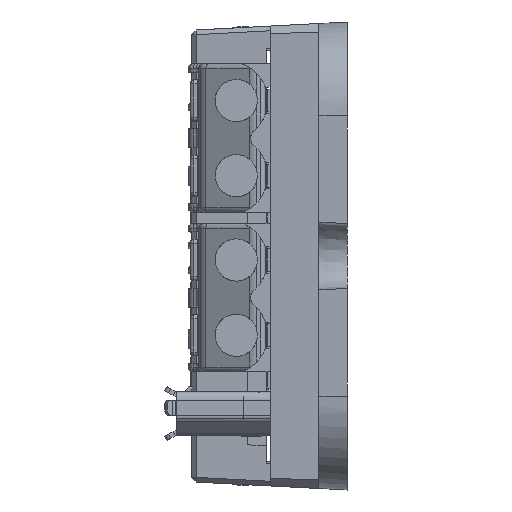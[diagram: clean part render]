
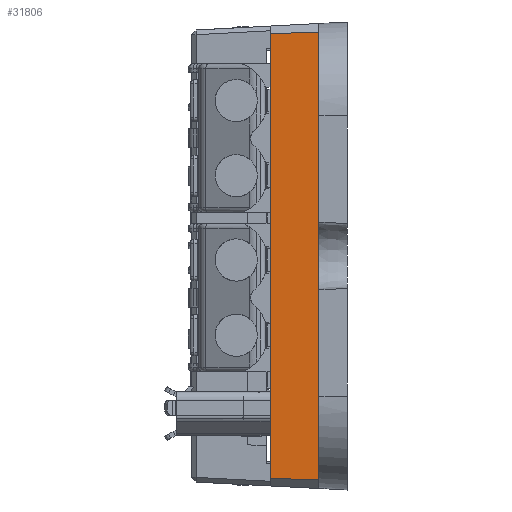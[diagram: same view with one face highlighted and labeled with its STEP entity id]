
A CAD part, left-side view. The second image highlights one B-rep face of the part: STEP entity #31806.
In plain terms, the highlighted planar face has unit normal (-0.999, 0.052, 0).
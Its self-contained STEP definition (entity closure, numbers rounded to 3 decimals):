
#2374=FACE_OUTER_BOUND('',#4142,.T.);
#4142=EDGE_LOOP('',(#21479,#21480,#21481,#21482));
#6231=LINE('',#46687,#9811);
#6235=LINE('',#46696,#9815);
#6236=LINE('',#46697,#9816);
#6237=LINE('',#46698,#9817);
#9811=VECTOR('',#37024,1000.);
#9815=VECTOR('',#37034,1000.);
#9816=VECTOR('',#37035,1000.);
#9817=VECTOR('',#37036,1000.);
#13305=VERTEX_POINT('',#46684);
#13306=VERTEX_POINT('',#46686);
#13307=VERTEX_POINT('',#46694);
#13308=VERTEX_POINT('',#46695);
#16485=EDGE_CURVE('',#13306,#13305,#6231,.T.);
#16489=EDGE_CURVE('',#13307,#13308,#6235,.T.);
#16490=EDGE_CURVE('',#13308,#13306,#6236,.T.);
#16491=EDGE_CURVE('',#13305,#13307,#6237,.T.);
#21479=ORIENTED_EDGE('',*,*,#16489,.T.);
#21480=ORIENTED_EDGE('',*,*,#16490,.T.);
#21481=ORIENTED_EDGE('',*,*,#16485,.T.);
#21482=ORIENTED_EDGE('',*,*,#16491,.T.);
#30656=PLANE('',#33683);
#31806=ADVANCED_FACE('',(#2374),#30656,.T.);
#33683=AXIS2_PLACEMENT_3D('',#46693,#37032,#37033);
#37024=DIRECTION('',(0.,0.,1.));
#37032=DIRECTION('center_axis',(-0.999,0.052,0.));
#37033=DIRECTION('ref_axis',(-0.052,-0.999,0.));
#37034=DIRECTION('',(0.,0.,-1.));
#37035=DIRECTION('',(-0.052,-0.998,-0.022));
#37036=DIRECTION('',(0.052,0.998,-0.022));
#46684=CARTESIAN_POINT('',(-33.948,1.5,11.897));
#46686=CARTESIAN_POINT('',(-33.948,1.5,-11.897));
#46687=CARTESIAN_POINT('',(-33.948,1.5,0.));
#46693=CARTESIAN_POINT('Origin',(-33.948,1.5,0.));
#46694=CARTESIAN_POINT('',(-33.811,4.1,11.84));
#46695=CARTESIAN_POINT('',(-33.811,4.1,-11.841));
#46696=CARTESIAN_POINT('',(-33.811,4.1,0.));
#46697=CARTESIAN_POINT('',(-33.934,1.758,-11.892));
#46698=CARTESIAN_POINT('',(-33.934,1.757,11.891));
